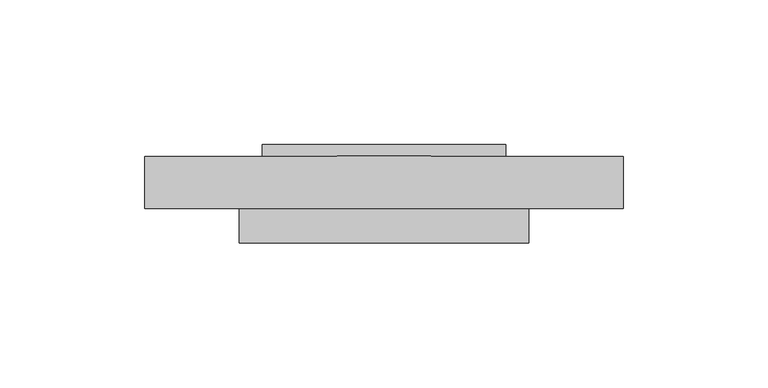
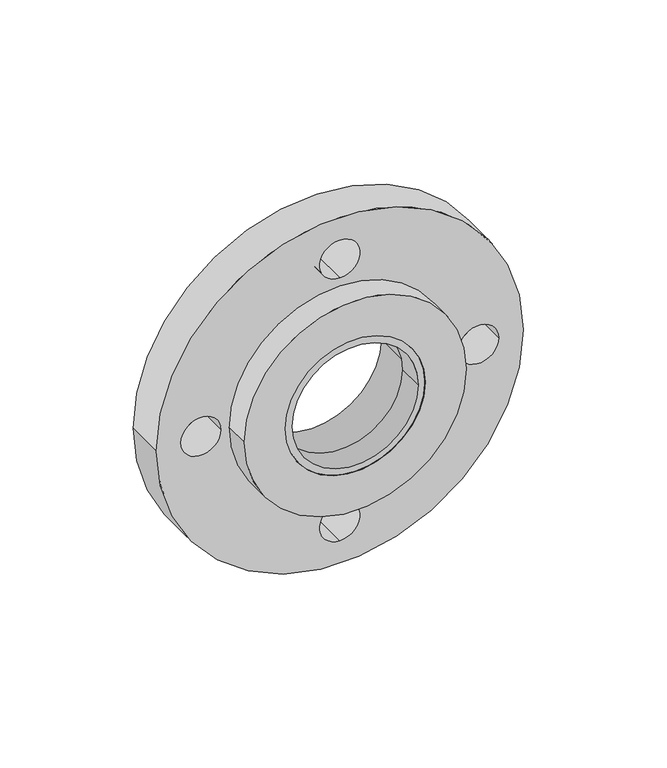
"""IFC4 building model written with IfcOpenShell, lengths in millimetres: pipe fitting geometry, EGB_VASEN_ PPR_Valona WXR140 : Valona WXR140 + Brida WXR900."""

from ifc_helpers import new_model, si_unit, point, frame, frame_2d, origin, origin_2d, place, context, project, spatial, circle_curve, trimmed, segment, composite_curve, outline, extrude, source, transform, mapped, element, save


def pipe_fitting_6f5698ff(model_context):
    return source(origin(), model_context, "Body", "SweptSolid", [
        extrude(outline(composite_curve([segment(trimmed(circle_curve(origin_2d(), 82.5), [point((0.0, -82.5))], [point((0.0, 82.5))], False, "CARTESIAN"), True, "CONTINUOUS"), segment(trimmed(circle_curve(origin_2d(), 82.5), [point((0.0, 82.5))], [point((0.0, -82.5))], False, "CARTESIAN"), True, "CONTINUOUS")], self_intersect=False), holes=[composite_curve([segment(trimmed(circle_curve(origin_2d(), 39.0), [point((0.0, -39.0))], [point((0.0, 39.0))], True, "CARTESIAN"), True, "CONTINUOUS"), segment(trimmed(circle_curve(origin_2d(), 39.0), [point((0.0, 39.0))], [point((0.0, -39.0))], True, "CARTESIAN"), True, "CONTINUOUS")], self_intersect=False), composite_curve([segment(trimmed(circle_curve(frame_2d((0.0, -62.5)), 9.0), [point((0.0, -53.5))], [point((0.0, -71.5))], True, "CARTESIAN"), True, "CONTINUOUS"), segment(trimmed(circle_curve(frame_2d((0.0, -62.5)), 9.0), [point((0.0, -71.5))], [point((0.0, -53.5))], True, "CARTESIAN"), True, "CONTINUOUS")], self_intersect=False), composite_curve([segment(trimmed(circle_curve(frame_2d((62.5, 0.0)), 9.0), [point((53.5, 0.0))], [point((71.5, 0.0))], True, "CARTESIAN"), True, "CONTINUOUS"), segment(trimmed(circle_curve(frame_2d((62.5, 0.0)), 9.0), [point((71.5, 0.0))], [point((53.5, 0.0))], True, "CARTESIAN"), True, "CONTINUOUS")], self_intersect=False), composite_curve([segment(trimmed(circle_curve(frame_2d((-62.5, 0.0)), 9.0), [point((-53.5, 0.0))], [point((-71.5, 0.0))], True, "CARTESIAN"), True, "CONTINUOUS"), segment(trimmed(circle_curve(frame_2d((-62.5, 0.0)), 9.0), [point((-71.5, 0.0))], [point((-53.5, 0.0))], True, "CARTESIAN"), True, "CONTINUOUS")], self_intersect=False), composite_curve([segment(trimmed(circle_curve(frame_2d((0.0, 62.5)), 9.0), [point((0.0, 53.5))], [point((0.0, 71.5))], True, "CARTESIAN"), True, "CONTINUOUS"), segment(trimmed(circle_curve(frame_2d((0.0, 62.5)), 9.0), [point((0.0, 71.5))], [point((0.0, 53.5))], True, "CARTESIAN"), True, "CONTINUOUS")], self_intersect=False)]), frame((0.0, 0.0, 0.0), z_axis=(0.0, 1.0, 0.0), x_axis=(0.0, 0.0, 1.0)), (0.0, 0.0, 1.0), 18.0),
        extrude(outline(composite_curve([segment(trimmed(circle_curve(origin_2d(), 42.0), [point((0.0, -42.0))], [point((0.0, 42.0))], False, "CARTESIAN"), True, "CONTINUOUS"), segment(trimmed(circle_curve(origin_2d(), 42.0), [point((0.0, 42.0))], [point((0.0, -42.0))], False, "CARTESIAN"), True, "CONTINUOUS")], self_intersect=False), holes=[composite_curve([segment(trimmed(circle_curve(origin_2d(), 31.5), [point((0.0, -31.5))], [point((0.0, 31.5))], True, "CARTESIAN"), True, "CONTINUOUS"), segment(trimmed(circle_curve(origin_2d(), 31.5), [point((0.0, 31.5))], [point((0.0, -31.5))], True, "CARTESIAN"), True, "CONTINUOUS")], self_intersect=False)]), frame((0.0, 0.0, 0.0), z_axis=(0.0, 1.0, 0.0), x_axis=(0.0, 0.0, 1.0)), (0.0, 0.0, 1.0), 22.0),
        extrude(outline(composite_curve([segment(trimmed(circle_curve(origin_2d(), 50.0), [point((0.0, -50.0))], [point((0.0, 50.0))], False, "CARTESIAN"), True, "CONTINUOUS"), segment(trimmed(circle_curve(origin_2d(), 50.0), [point((0.0, 50.0))], [point((0.0, -50.0))], False, "CARTESIAN"), True, "CONTINUOUS")], self_intersect=False), holes=[composite_curve([segment(trimmed(circle_curve(origin_2d(), 31.5), [point((0.0, -31.5))], [point((0.0, 31.5))], True, "CARTESIAN"), True, "CONTINUOUS"), segment(trimmed(circle_curve(origin_2d(), 31.5), [point((0.0, 31.5))], [point((0.0, -31.5))], True, "CARTESIAN"), True, "CONTINUOUS")], self_intersect=False)]), frame((0.0, -12.0, 0.0), z_axis=(0.0, 1.0, 0.0), x_axis=(0.0, 0.0, 1.0)), (0.0, 0.0, 1.0), 12.0),
        extrude(outline(composite_curve([segment(trimmed(circle_curve(origin_2d(), 31.5), [point((0.0, -31.5))], [point((0.0, 31.5))], False, "CARTESIAN"), True, "CONTINUOUS"), segment(trimmed(circle_curve(origin_2d(), 31.5), [point((0.0, 31.5))], [point((0.0, -31.5))], False, "CARTESIAN"), True, "CONTINUOUS")], self_intersect=False), holes=[composite_curve([segment(trimmed(circle_curve(origin_2d(), 28.35), [point((0.0, -28.35))], [point((0.0, 28.35))], True, "CARTESIAN"), True, "CONTINUOUS"), segment(trimmed(circle_curve(origin_2d(), 28.35), [point((0.0, 28.35))], [point((0.0, -28.35))], True, "CARTESIAN"), True, "CONTINUOUS")], self_intersect=False)]), frame((0.0, -12.0, 0.0), z_axis=(0.0, 1.0, 0.0), x_axis=(0.0, 0.0, 1.0)), (0.0, 0.0, 1.0), 12.0),
    ])


if __name__ == "__main__":
    model = new_model("IFC4")
    model_context = context("Model", 3, world=origin())
    ifc_project = project(units=[si_unit("LENGTHUNIT", "METRE", prefix="MILLI")], contexts=[model_context])
    site = spatial("IfcSite", under=ifc_project)
    building = spatial("IfcBuilding", under=site)
    placement = place(None, origin())
    pipe_fitting_shape = pipe_fitting_6f5698ff(model_context)
    element("IfcPipeFitting", 1, ObjectType="EGB_VASEN_ PPR_Valona WXR140 : Valona WXR140 + Brida WXR900", at=placement, inside=building, context=model_context, shape_type="MappedRepresentation", body=[
        mapped(pipe_fitting_shape, transform((0.0, 0.0, 0.0), x_axis=(1.0, 0.0, 0.0), y_axis=(0.0, 1.0, 0.0), z_axis=(0.0, 0.0, 1.0))),
    ])
    save(model, "model.ifc")
